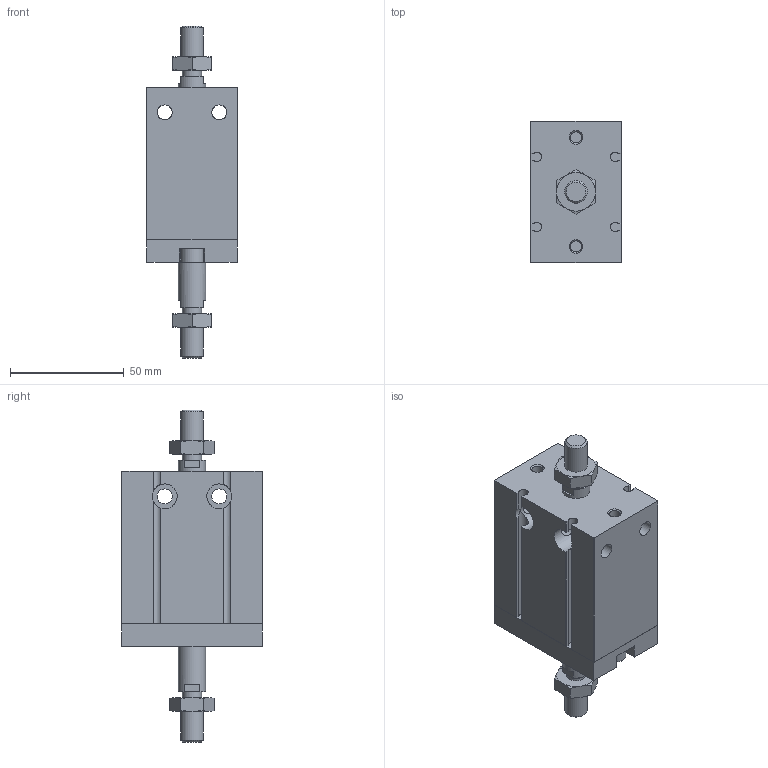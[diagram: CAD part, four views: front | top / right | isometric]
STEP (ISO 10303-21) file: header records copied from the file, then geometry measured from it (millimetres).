
FILE_DESCRIPTION( ( 'STEP AP214' ), '1' );
FILE_NAME( 'C:/Users/EMC02301/Desktop/EU图纸/EUD32X15-0-S.stp', '2026-08-12T01:07:29', ( 'License CC BY-ND 4.0' ), ( 'CADENAS' ), ' ', 'PARTsolutions', ' ' );
FILE_SCHEMA( ( 'AUTOMOTIVE_DESIGN { 1 0 10303 214 1 1 1 1 }' ) );
Length unit declared in the file: millimetre
Products named in the file (5): EUD32X15-0-S()(0); _EUD32X15-0-S()(0-dummy); _EUD32X15--S()(-body); _EUD32X15--S(0-rod); _EU_BOARD_32
Assembly tree (4 placements, depth 2):
  EUD32X15-0-S()(0)
    _EUD32X15-0-S()(0-dummy)
    _EUD32X15--S()(-body)
    _EUD32X15--S(0-rod)
    _EU_BOARD_32
Bounding box: 40 x 62 x 146 mm (x, y, z)
Volume: 175063.3 mm3; surface area: 47318.1 mm2
Topology: 3 solids, 3 shells, 219 faces, 537 edges, 347 vertices
Faces by surface type: plane 98, cylinder 83, cone 36, torus 2
Full cylindrical faces by diameter (mm): 4.917 x4, 6 x2, 6.6 x8, 8.466 x2, 9.728 x2, 10 x4, 11 x4, 12 x5, 32 x2
Entity records: 9004 total; most frequent: CARTESIAN_POINT 2261, DIRECTION 980, ORIENTED_EDGE 972, EDGE_CURVE 486, AXIS2_PLACEMENT_3D 382, VERTEX_POINT 338, EDGE_LOOP 304, FACE_OUTER_BOUND 254
